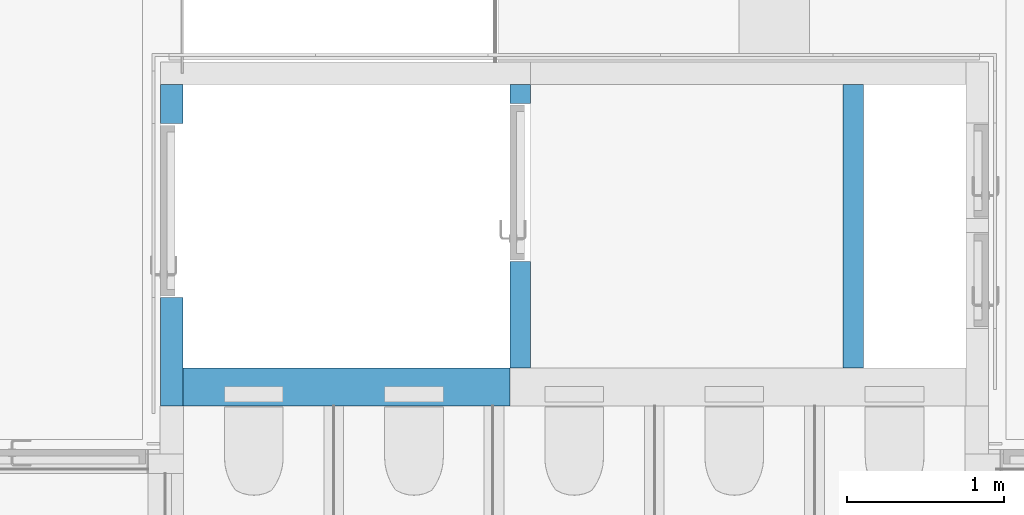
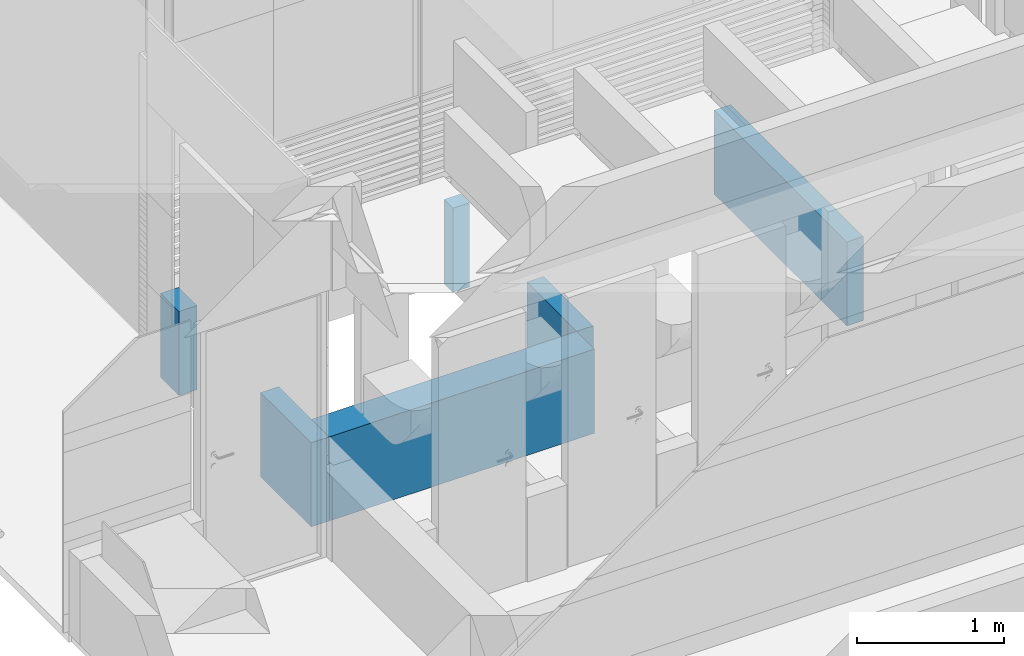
# One storey, part 15 of 26: 4 walls, 2 openings.
"""IFC2X3 building model written with IfcOpenShell, lengths in millimetres."""

from ifc_helpers import new_model, entity, si_unit, converted_unit, derived_unit, direction, frame, frame_2d, origin, origin_with_axes, place, context, subcontext, project, spatial, rectangle, extrude, clip, halfspace, material, layer, layer_set, layer_usage, type_object, element, save


model = new_model("IFC2X3")

# Units and contexts
model_context = context("Model", 3, precision=0.01, world=frame((0.0, 4.29681676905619e-09, 0.0)), true_north=direction((4.01073788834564e-13, 1.0)))
plan_context = context("Plan", 3, precision=0.01, world=frame((0.0, 4.29681676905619e-09, 0.0)), true_north=direction((4.01073788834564e-13, 1.0)))
body_context = subcontext(model_context, "Body", "Model", "MODEL_VIEW")
ifc_project = project(units=[converted_unit("PLANEANGLEUNIT", "DEGREE", entity("IfcPositiveLengthMeasure", 0.0174532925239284), si_unit("PLANEANGLEUNIT", "RADIAN"), dimensions=[0, 0, 0, 0, 0, 0, 0]), si_unit("AREAUNIT", "SQUARE_METRE"), si_unit("LENGTHUNIT", "METRE", prefix="MILLI"), si_unit("MASSUNIT", "GRAM", prefix="KILO"), si_unit("POWERUNIT", "WATT"), si_unit("PRESSUREUNIT", "PASCAL", prefix="KILO"), si_unit("FORCEUNIT", "NEWTON", prefix="KILO"), si_unit("ELECTRICVOLTAGEUNIT", "VOLT"), si_unit("ELECTRICCURRENTUNIT", "AMPERE"), si_unit("THERMODYNAMICTEMPERATUREUNIT", "DEGREE_CELSIUS"), si_unit("TIMEUNIT", "SECOND"), si_unit("VOLUMEUNIT", "CUBIC_METRE"), derived_unit("LINEARVELOCITYUNIT", [(si_unit("LENGTHUNIT", "METRE"), 1), (si_unit("TIMEUNIT", "SECOND"), -1)]), derived_unit("VOLUMETRICFLOWRATEUNIT", [(si_unit("VOLUMEUNIT", "CUBIC_METRE"), 1), (si_unit("TIMEUNIT", "SECOND"), -1)]), derived_unit("THERMALTRANSMITTANCEUNIT", [(si_unit("POWERUNIT", "WATT"), 1), (si_unit("THERMODYNAMICTEMPERATUREUNIT", "KELVIN"), -1), (si_unit("AREAUNIT", "SQUARE_METRE"), -1)]), derived_unit("SOUNDPRESSUREUNIT", [(si_unit("PRESSUREUNIT", "PASCAL"), 1)])], contexts=[model_context, plan_context])

# Site, building, storey
site_placement = place(None, origin_with_axes())
site = spatial("IfcSite", under=ifc_project, at=site_placement, Name="ENGM", CompositionType="ELEMENT")
building_placement = place(site_placement, origin_with_axes())
building = spatial("IfcBuilding", under=site, at=building_placement, Name="TG", CompositionType="ELEMENT")
storey_placement = place(building_placement, frame((0.0, 0.0, 210200.0), z_axis=(0.0, 0.0, 1.0), x_axis=(1.0, 0.0, 0.0)))
storey = spatial("IfcBuildingStorey", under=building, at=storey_placement, Name="Nivå F - 0,7 m", CompositionType="ELEMENT", Elevation=210200.0)

# Wall, opening
ifc_material_1 = material(Name="T2_Gips Protect F")
ifc_layer_1 = layer(ifc_material_1, 15.0)
ifc_material_2 = material(Name="T2_Gips Standard")
ifc_layer_2 = layer(ifc_material_2, 12.5)
ifc_material_3 = material(Name="_NSW Stålstender, uisolert")
ifc_layer_3 = layer(ifc_material_3, 100.0)
ifc_layer_4 = layer(ifc_material_1, 15.0)
ifc_layer_set_1 = layer_set([ifc_layer_1, ifc_layer_2, ifc_layer_3, ifc_layer_4], Name="Basic Wall:A241 - FSVF-100")
ifc_layer_usage_1 = layer_usage(ifc_layer_set_1, "AXIS2", "POSITIVE", -71.25)
wall_type_1 = type_object("IfcWallType", Name="Basic Wall:A241 - FSVF-100", PredefinedType="STANDARD", material=ifc_layer_set_1)
wall_1_placement = place(storey_placement, frame((323931.499999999, 464531.250000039, 0.0), z_axis=(0.0, 0.0, 1.0), x_axis=(0.0, -1.0, 0.0)))
wall_1 = element("IfcWallStandardCase", 1, at=wall_1_placement, inside=storey, type_object=wall_type_1, material=ifc_layer_usage_1, Name="Basic Wall:A241 - FSVF-100", ObjectType="Basic Wall:A241 - FSVF-100", context=body_context, shape_type="Clipping", body=[
    clip(extrude(rectangle(XDim=2052.64999999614, YDim=142.500000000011, at=frame_2d((1026.32499999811, 2.23820961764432e-12), x_axis=(1.0, 0.0))), origin(), (0.0, 0.0, 1.0), 700.000000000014), halfspace(origin(), True)),
])
opening_1_placement = place(wall_1_placement, frame((1361.25000000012, 71.2500000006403, 0.0), z_axis=(0.0, 0.0, 1.0), x_axis=(1.0, 0.0, 0.0)))
element("IfcOpeningElement", 2, at=opening_1_placement, cuts=wall_1, Name="A20 - Slagdør - Enkel:A243 - DI_LTO - 1090 x 2090 mm:1", ObjectType="Opening", context=body_context, shape_type="SweptSolid", body=[
    extrude(rectangle(XDim=2109.99999999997, YDim=1110.0, at=frame_2d((1054.99999999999, 555.0), x_axis=(1.0, 0.0))), frame((0.0, 0.0, 0.0), z_axis=(0.0, -1.0, 0.0), x_axis=(0.0, 0.0, 1.0)), (0.0, 0.0, 1.0), 142.5),
])

ifc_layer_5 = layer(ifc_material_1, 15.0)
ifc_layer_6 = layer(ifc_material_3, 100.0)
ifc_layer_7 = layer(ifc_material_1, 15.0)
ifc_layer_set_2 = layer_set([ifc_layer_5, ifc_layer_6, ifc_layer_7], Name="Basic Wall:A241 - FVF-100")
ifc_layer_usage_2 = layer_usage(ifc_layer_set_2, "AXIS2", "POSITIVE", -65.0)
wall_type_2 = type_object("IfcWallType", Name="Basic Wall:A241 - FVF-100", PredefinedType="STANDARD", material=ifc_layer_set_2)
wall_2_placement = place(storey_placement, frame((326155.0, 462721.250000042, 0.0), z_axis=(0.0, 0.0, 1.0), x_axis=(0.0, 1.0, 0.0)))
wall_2 = element("IfcWallStandardCase", 3, at=wall_2_placement, inside=storey, type_object=wall_type_2, material=ifc_layer_usage_2, Name="Basic Wall:A241 - FVF-100", ObjectType="Basic Wall:A241 - FVF-100", context=body_context, shape_type="Clipping", body=[
    clip(extrude(rectangle(XDim=1809.99999999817, YDim=130.000000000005, at=frame_2d((904.999999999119, 2.46700437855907e-11), x_axis=(1.0, 0.0))), origin(), (0.0, 0.0, 1.0), 700.000000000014), halfspace(origin(), True)),
])
opening_2_placement = place(wall_2_placement, frame((678.749999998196, -65.0, 0.0), z_axis=(0.0, 0.0, 1.0), x_axis=(1.0, 0.0, 0.0)))
element("IfcOpeningElement", 4, at=opening_2_placement, cuts=wall_2, Name="A20 - Slagdør - Enkel:A243 - DI_LTO - 0990 x 2090 mm:1", ObjectType="Opening", context=body_context, shape_type="SweptSolid", body=[
    extrude(rectangle(XDim=2109.99999999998, YDim=1010.0, at=frame_2d((1054.99999999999, 505.0), x_axis=(1.0, 0.0))), frame((0.0, 0.0, 0.0), z_axis=(0.0, 1.0, 0.0), x_axis=(0.0, 0.0, 1.0)), (0.0, 0.0, 1.0), 130.0),
])

# Walls
ifc_layer_usage_3 = layer_usage(ifc_layer_set_2, "AXIS2", "POSITIVE", -65.0)
wall_3_placement = place(storey_placement, frame((328280.5, 464531.250000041, 0.0), z_axis=(0.0, 0.0, 1.0), x_axis=(0.0, -1.0, 0.0)))
element("IfcWallStandardCase", 5, at=wall_3_placement, inside=storey, type_object=wall_type_2, material=ifc_layer_usage_3, Name="Basic Wall:A241 - FVF-100", ObjectType="Basic Wall:A241 - FVF-100", context=body_context, shape_type="Clipping", body=[
    clip(extrude(rectangle(XDim=1809.99999999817, YDim=130.000000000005, at=frame_2d((904.999999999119, -2.62900812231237e-13), x_axis=(-1.0, 0.0))), origin(), (0.0, 0.0, 1.0), 700.000000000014), halfspace(origin(), True)),
])
ifc_layer_8 = layer(ifc_material_1, 15.0)
ifc_layer_9 = layer(ifc_material_1, 15.0)
ifc_material_4 = material(Name="_NSW Stålstender, isolert uten skravur")
ifc_layer_10 = layer(ifc_material_4, 200.0)
ifc_material_5 = material(Name="T2_Gips Fibergips")
ifc_layer_11 = layer(ifc_material_5, 12.5)
ifc_layer_set_3 = layer_set([ifc_layer_8, ifc_layer_9, ifc_layer_10, ifc_layer_11], Name="Basic Wall:A241 - FVR-200 (T1)")
ifc_layer_usage_4 = layer_usage(ifc_layer_set_3, "AXIS2", "POSITIVE", -121.25)
wall_type_3 = type_object("IfcWallType", Name="Basic Wall:A241 - FVR-200 (T1)", PredefinedType="STANDARD", material=ifc_layer_set_3)
wall_4_placement = place(storey_placement, frame((324002.75, 462600.000000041, 0.0), z_axis=(0.0, 0.0, 1.0), x_axis=(1.0, 0.0, 0.0)))
element("IfcWallStandardCase", 6, at=wall_4_placement, inside=storey, type_object=wall_type_3, material=ifc_layer_usage_4, Name="Basic Wall:A241 - FVR-200 (T1)", ObjectType="Basic Wall:A241 - FVR-200 (T1)", context=body_context, shape_type="Clipping", body=[
    clip(extrude(rectangle(XDim=2087.24999999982, YDim=242.499999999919, at=frame_2d((1043.62499999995, 6.97468749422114e-11), x_axis=(-1.0, 0.0))), origin(), (0.0, 0.0, 1.0), 700.000000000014), halfspace(origin(), True)),
])

save(model, "model.ifc")
